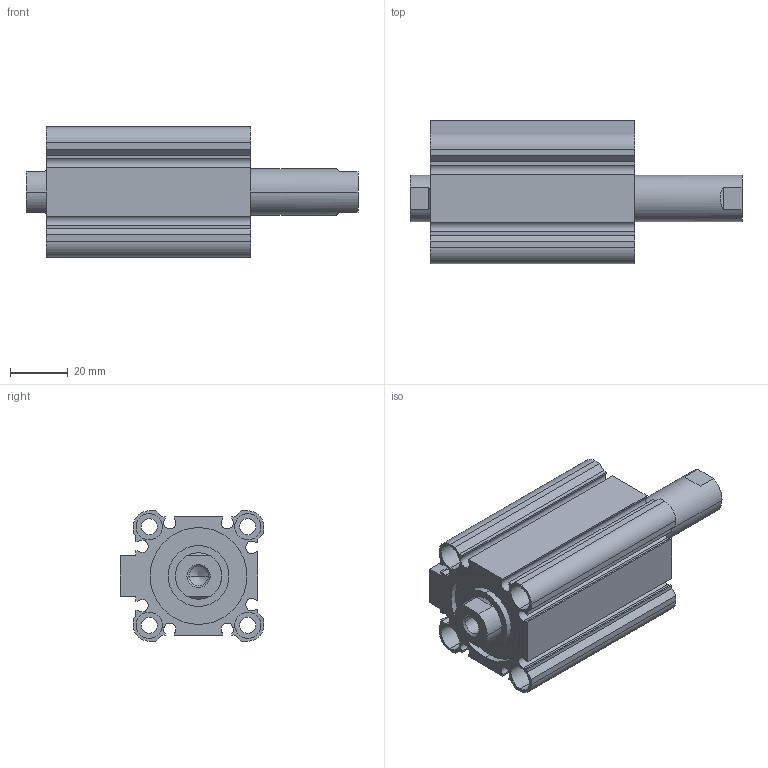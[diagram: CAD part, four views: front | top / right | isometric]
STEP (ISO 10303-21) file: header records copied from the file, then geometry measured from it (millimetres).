
FILE_DESCRIPTION (( 'STEP AP203' ), '1' );
FILE_NAME ('CCMB32-30F-P.STEP', '2020-08-05T11:14:26', ( '' ), ( '' ), 'SwSTEP 2.0', 'SolidWorks 2019', '' );
FILE_SCHEMA (( 'CONFIG_CONTROL_DESIGN' ));
Length unit declared in the file: millimetre
Products named in the file (1): CCMB32-30F-P
Bounding box: 114.5 x 49.5 x 45 mm (x, y, z)
Volume: 102369.1 mm3; surface area: 43468.9 mm2
Topology: 2 solids, 2 shells, 164 faces, 414 edges, 270 vertices
Faces by surface type: plane 78, cylinder 74, cone 12
Entity records: 5029 total; most frequent: DIRECTION 896, CARTESIAN_POINT 857, ORIENTED_EDGE 820, EDGE_CURVE 410, AXIS2_PLACEMENT_3D 325, VERTEX_POINT 270, VECTOR 246, LINE 246
